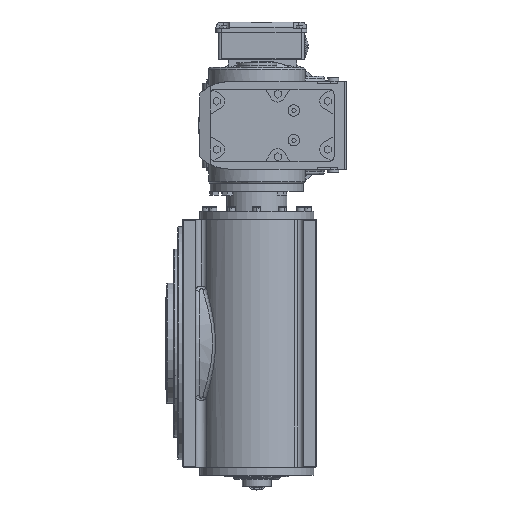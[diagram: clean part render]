
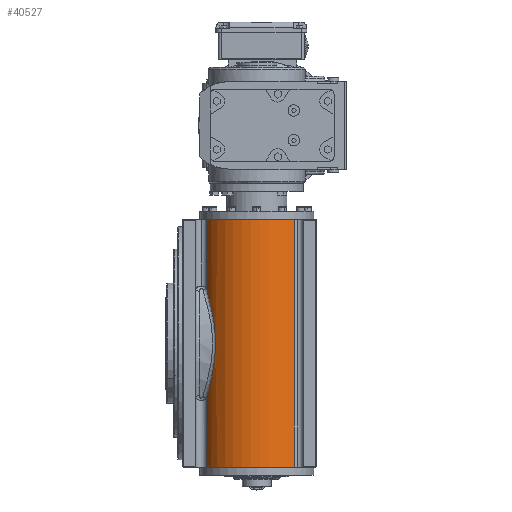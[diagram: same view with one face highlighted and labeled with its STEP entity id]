
A CAD part, left-side view. The second image highlights one B-rep face of the part: STEP entity #40527.
In plain terms, the highlighted cylindrical face has radius 71 mm (diameter 142 mm), a partial arc.
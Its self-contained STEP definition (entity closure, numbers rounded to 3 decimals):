
#27 = CARTESIAN_POINT ( 'NONE',  ( -95., 74., 154. ) ) ;
#713 = CARTESIAN_POINT ( 'NONE',  ( -128.109, 136.808, 68.859 ) ) ;
#6254 = FACE_OUTER_BOUND ( 'NONE', #44391, .T. ) ;
#8230 = DIRECTION ( 'NONE',  ( 0., 0., 1. ) ) ;
#9843 = CARTESIAN_POINT ( 'NONE',  ( -148.721, 27.577, -154. ) ) ;
#10738 = CARTESIAN_POINT ( 'NONE',  ( -132.999, 134.023, -58.167 ) ) ;
#10761 = CARTESIAN_POINT ( 'NONE',  ( -148.721, 27.577, 154. ) ) ;
#11014 = ORIENTED_EDGE ( 'NONE', *, *, #51526, .T. ) ;
#11192 = CARTESIAN_POINT ( 'NONE',  ( -144.04, 125.343, -6.17 ) ) ;
#11662 = CARTESIAN_POINT ( 'NONE',  ( -136.889, 131.329, 46.942 ) ) ;
#12707 = CARTESIAN_POINT ( 'NONE',  ( -95., 74., -154. ) ) ;
#17681 = CARTESIAN_POINT ( 'NONE',  ( -128.109, 136.808, 68.859 ) ) ;
#17742 = VERTEX_POINT ( 'NONE', #67017 ) ;
#18544 = CARTESIAN_POINT ( 'NONE',  ( -128.109, 136.808, -154. ) ) ;
#19052 = CARTESIAN_POINT ( 'NONE',  ( -143.2, 126.132, 16.387 ) ) ;
#24854 = ORIENTED_EDGE ( 'NONE', *, *, #58777, .T. ) ;
#25064 = CARTESIAN_POINT ( 'NONE',  ( -143.351, 125.993, 14.878 ) ) ;
#25537 = CARTESIAN_POINT ( 'NONE',  ( -138.57, 130.069, 41.275 ) ) ;
#26361 = EDGE_CURVE ( 'NONE', #63383, #41616, #49791, .T. ) ;
#27219 = CARTESIAN_POINT ( 'NONE',  ( -95., 74., -154. ) ) ;
#28171 = DIRECTION ( 'NONE',  ( 0., 0., 1. ) ) ;
#32278 = ORIENTED_EDGE ( 'NONE', *, *, #77801, .F. ) ;
#32442 = CARTESIAN_POINT ( 'NONE',  ( -143.607, 125.753, 11.865 ) ) ;
#32911 = CARTESIAN_POINT ( 'NONE',  ( -144.049, 125.334, 2.839 ) ) ;
#33811 = CARTESIAN_POINT ( 'NONE',  ( -135.5, 132.319, 51.157 ) ) ;
#37383 = CARTESIAN_POINT ( 'NONE',  ( -128.109, 136.808, -500000. ) ) ;
#38518 = AXIS2_PLACEMENT_3D ( 'NONE', #27219, #8230, #90344 ) ;
#38588 = EDGE_CURVE ( 'NONE', #70819, #64531, #64085, .T. ) ;
#39430 = CARTESIAN_POINT ( 'NONE',  ( -142.631, 126.653, -21.138 ) ) ;
#39573 = ORIENTED_EDGE ( 'NONE', *, *, #71285, .F. ) ;
#39873 = CARTESIAN_POINT ( 'NONE',  ( -135.977, 131.984, 49.755 ) ) ;
#40527 = ADVANCED_FACE ( 'NONE', ( #6254 ), #76434, .T. ) ;
#41616 = VERTEX_POINT ( 'NONE', #10761 ) ;
#42831 = DIRECTION ( 'NONE',  ( 0., 0., 1. ) ) ;
#43013 = AXIS2_PLACEMENT_3D ( 'NONE', #27, #28171, #64169 ) ;
#44391 = EDGE_LOOP ( 'NONE', ( #32278, #74611, #11014, #24854, #58822, #39573 ) ) ;
#45889 = CARTESIAN_POINT ( 'NONE',  ( -142.826, 126.476, -19.641 ) ) ;
#46373 = CARTESIAN_POINT ( 'NONE',  ( -137.325, 131.008, 45.529 ) ) ;
#47263 = CARTESIAN_POINT ( 'NONE',  ( -128.109, 136.808, 500000. ) ) ;
#47287 = CARTESIAN_POINT ( 'NONE',  ( -133.018, 134.012, 58.125 ) ) ;
#47751 = CARTESIAN_POINT ( 'NONE',  ( -142.199, 127.041, -24.119 ) ) ;
#49791 = LINE ( 'NONE', #77878, #83467 ) ;
#51526 = EDGE_CURVE ( 'NONE', #64531, #55114, #75797, .T. ) ;
#52155 = LINE ( 'NONE', #37383, #72998 ) ;
#53249 = CARTESIAN_POINT ( 'NONE',  ( -141.962, 127.251, -25.6 ) ) ;
#54171 = CARTESIAN_POINT ( 'NONE',  ( -141.327, 127.831, 29.758 ) ) ;
#54754 = DIRECTION ( 'NONE',  ( 0., 0., 1. ) ) ;
#54814 = CIRCLE ( 'NONE', #43013, 71. ) ;
#55114 = VERTEX_POINT ( 'NONE', #18544 ) ;
#55198 = DIRECTION ( 'NONE',  ( 1., 0., 0. ) ) ;
#58777 = EDGE_CURVE ( 'NONE', #55114, #63383, #72374, .T. ) ;
#58822 = ORIENTED_EDGE ( 'NONE', *, *, #26361, .T. ) ;
#60668 = CARTESIAN_POINT ( 'NONE',  ( -141.192, 127.924, -30.015 ) ) ;
#63383 = VERTEX_POINT ( 'NONE', #9843 ) ;
#64085 = B_SPLINE_CURVE_WITH_KNOTS ( 'NONE', 3,
 ( #17681, #81369, #47287, #33811, #39873, #11662, #46373, #25537, #82292, #54171, #68009, #19052, #25064, #32442, #68460, #74464, #32911, #11192, #67099, #45889, #39430, #47751, #53249, #60668, #74015, #90029, #88673, #10738, #82744, #75373 ),
 .UNSPECIFIED., .F., .F.,
 ( 4, 2, 2, 2, 2, 2, 2, 2, 2, 2, 2, 2, 2, 2, 4 ),
 ( 0., 0.018, 0.023, 0.027, 0.036, 0.055, 0.059, 0.064, 0.073, 0.091, 0.095, 0.1, 0.109, 0.127, 0.145 ),
 .UNSPECIFIED. ) ;
#64169 = DIRECTION ( 'NONE',  ( 1., 0., 0. ) ) ;
#64531 = VERTEX_POINT ( 'NONE', #85439 ) ;
#67017 = CARTESIAN_POINT ( 'NONE',  ( -128.109, 136.808, 154. ) ) ;
#67099 = CARTESIAN_POINT ( 'NONE',  ( -143.692, 125.681, -12.164 ) ) ;
#68009 = CARTESIAN_POINT ( 'NONE',  ( -142.345, 126.918, 23.884 ) ) ;
#68460 = CARTESIAN_POINT ( 'NONE',  ( -143.713, 125.653, 10.36 ) ) ;
#70819 = VERTEX_POINT ( 'NONE', #713 ) ;
#71285 = EDGE_CURVE ( 'NONE', #17742, #41616, #54814, .T. ) ;
#72374 = CIRCLE ( 'NONE', #38518, 71. ) ;
#72998 = VECTOR ( 'NONE', #80243, 1000. ) ;
#74015 = CARTESIAN_POINT ( 'NONE',  ( -140.598, 128.429, -32.922 ) ) ;
#74464 = CARTESIAN_POINT ( 'NONE',  ( -143.967, 125.413, 5.846 ) ) ;
#74611 = ORIENTED_EDGE ( 'NONE', *, *, #38588, .T. ) ;
#75347 = DIRECTION ( 'NONE',  ( 0., 0., -1. ) ) ;
#75373 = CARTESIAN_POINT ( 'NONE',  ( -128.109, 136.808, -68.859 ) ) ;
#75797 = LINE ( 'NONE', #47263, #78374 ) ;
#76434 = CYLINDRICAL_SURFACE ( 'NONE', #88657, 71. ) ;
#77801 = EDGE_CURVE ( 'NONE', #70819, #17742, #52155, .T. ) ;
#77878 = CARTESIAN_POINT ( 'NONE',  ( -148.721, 27.577, -154. ) ) ;
#78374 = VECTOR ( 'NONE', #75347, 1000. ) ;
#80243 = DIRECTION ( 'NONE',  ( 0., 0., 1. ) ) ;
#81369 = CARTESIAN_POINT ( 'NONE',  ( -130.725, 135.429, 63.555 ) ) ;
#82292 = CARTESIAN_POINT ( 'NONE',  ( -139.32, 129.475, 38.415 ) ) ;
#82744 = CARTESIAN_POINT ( 'NONE',  ( -130.722, 135.43, -63.561 ) ) ;
#83467 = VECTOR ( 'NONE', #42831, 1000. ) ;
#85439 = CARTESIAN_POINT ( 'NONE',  ( -128.109, 136.808, -68.859 ) ) ;
#88657 = AXIS2_PLACEMENT_3D ( 'NONE', #12707, #54754, #55198 ) ;
#88673 = CARTESIAN_POINT ( 'NONE',  ( -136.93, 131.346, -47.157 ) ) ;
#90029 = CARTESIAN_POINT ( 'NONE',  ( -138.584, 130.076, -41.542 ) ) ;
#90344 = DIRECTION ( 'NONE',  ( 1., 0., 0. ) ) ;
